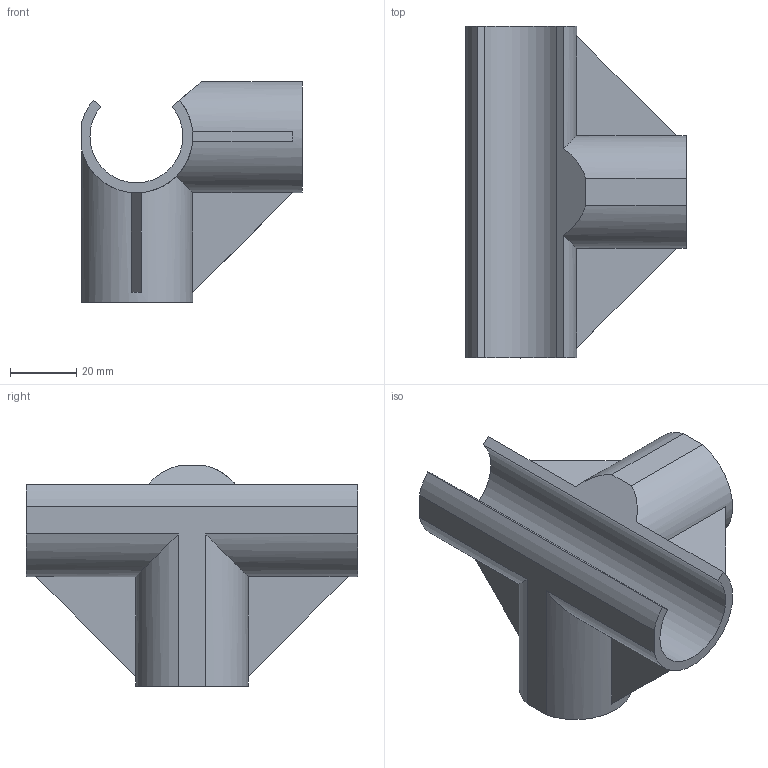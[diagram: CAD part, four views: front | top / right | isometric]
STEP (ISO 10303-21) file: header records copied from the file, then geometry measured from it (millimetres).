
FILE_DESCRIPTION (( 'STEP AP214' ), '1' );
FILE_NAME ('PJ-102.STEP', '2023-09-12T10:59:27', ( 'catia' ), ( 'HP Inc.' ), 'SwSTEP 2.0', 'SolidWorks 2021', '' );
FILE_SCHEMA (( 'AUTOMOTIVE_DESIGN' ));
Length unit declared in the file: millimetre
Products named in the file (1): PJ-102
Bounding box: 66.5 x 100 x 66.5 mm (x, y, z)
Volume: 53585.8 mm3; surface area: 32405.1 mm2
Topology: 1 solids, 1 shells, 38 faces, 102 edges, 68 vertices
Faces by surface type: plane 25, cylinder 13
Entity records: 1219 total; most frequent: CARTESIAN_POINT 284, ORIENTED_EDGE 204, DIRECTION 174, EDGE_CURVE 102, VERTEX_POINT 68, LINE 58, VECTOR 58, AXIS2_PLACEMENT_3D 58
